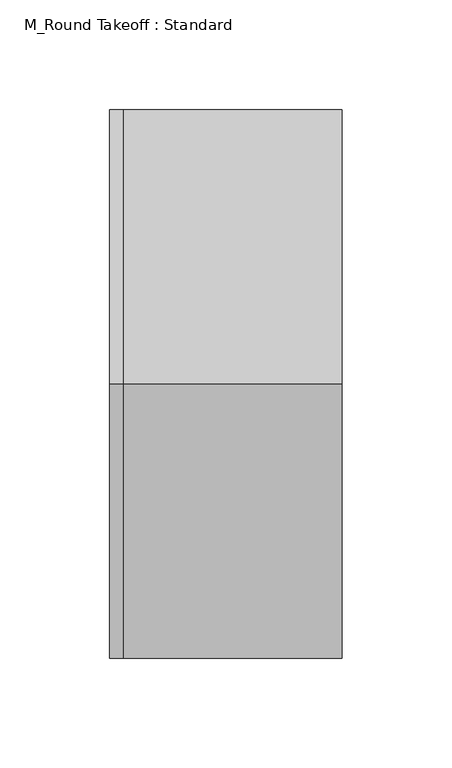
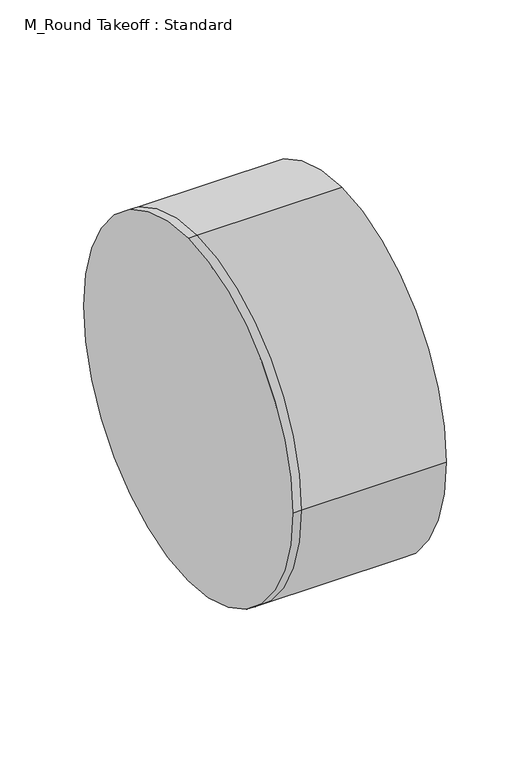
"""IFC4 building model written with IfcOpenShell, lengths in millimetres: duct fitting geometry, M_Round Takeoff : Standard."""

from ifc_helpers import new_model, si_unit, frame, origin, place, context, project, spatial, circle_curve, source, transform, mapped, element, save
from ifc_brep_helpers import plane_surface, cylinder_surface, advanced_brep


def m_round_takeoff_standard_6838db43(model_context):
    return source(origin(), model_context, "Body", "AdvancedBrep", [
        advanced_brep(
        [(-6.0985615, 0.0, 125.0), (-6.0985615, 125.0, 0.0), (-6.0985615, 0.0, -125.0), (-6.0985615, -125.0, 0.0), (0.0, 0.0, 125.0), (0.0, 125.0, 0.0), (0.0, 0.0, -125.0), (0.0, -125.0, 0.0), (100.0025615, 0.0, 125.0), (100.0025615, -125.0, 0.0), (100.0025615, 0.0, -125.0), (100.0025615, 125.0, 0.0)],
        [
            (0, 1, circle_curve(frame((-6.0985615, 0.0, 0.0), z_axis=(-1.0, 0.0, 0.0), x_axis=(0.0, 1.0, 0.0)), 125.0)),
            (1, 2, circle_curve(frame((-6.0985615, 0.0, 0.0), z_axis=(-1.0, 0.0, 0.0), x_axis=(0.0, 1.0, 0.0)), 125.0)),
            (2, 3, circle_curve(frame((-6.0985615, 0.0, 0.0), z_axis=(-1.0, 0.0, 0.0), x_axis=(0.0, 1.0, 0.0)), 125.0)),
            (3, 0, circle_curve(frame((-6.0985615, 0.0, 0.0), z_axis=(-1.0, 0.0, 0.0), x_axis=(0.0, 1.0, 0.0)), 125.0)),
            (0, 4),
            (4, 5, circle_curve(frame((0.0, 0.0, 0.0), z_axis=(-1.0, 0.0, 0.0), x_axis=(0.0, 1.0, 0.0)), 125.0)),
            (5, 1),
            (5, 6, circle_curve(frame((0.0, 0.0, 0.0), z_axis=(-1.0, 0.0, 0.0), x_axis=(0.0, 1.0, 0.0)), 125.0)),
            (6, 2),
            (6, 7, circle_curve(frame((0.0, 0.0, 0.0), z_axis=(-1.0, 0.0, 0.0), x_axis=(0.0, 1.0, 0.0)), 125.0)),
            (7, 3),
            (7, 4, circle_curve(frame((0.0, 0.0, 0.0), z_axis=(-1.0, 0.0, 0.0), x_axis=(0.0, 1.0, 0.0)), 125.0)),
            (8, 9, circle_curve(frame((100.0025615, 0.0, 0.0), z_axis=(1.0, 0.0, 0.0), x_axis=(0.0, 1.0, 0.0)), 125.0)),
            (9, 10, circle_curve(frame((100.0025615, 0.0, 0.0), z_axis=(1.0, 0.0, 0.0), x_axis=(0.0, 1.0, 0.0)), 125.0)),
            (10, 11, circle_curve(frame((100.0025615, 0.0, 0.0), z_axis=(1.0, 0.0, 0.0), x_axis=(0.0, 1.0, 0.0)), 125.0)),
            (11, 8, circle_curve(frame((100.0025615, 0.0, 0.0), z_axis=(1.0, 0.0, 0.0), x_axis=(0.0, 1.0, 0.0)), 125.0)),
            (11, 5),
            (4, 8),
            (10, 6),
            (9, 7),
        ],
        [
            plane_surface(frame((-6.0985615, 0.0, 0.0), z_axis=(-1.0, 0.0, 0.0), x_axis=(0.0, 0.0, 1.0))),
            cylinder_surface(frame((-6.0985615, 0.0, 0.0), z_axis=(-1.0, 0.0, 0.0), x_axis=(0.0, 1.0, 0.0)), 125.0),
            plane_surface(frame((100.0025615, 0.0, 0.0), z_axis=(1.0, 0.0, 0.0), x_axis=(0.0, 0.0, 1.0))),
            cylinder_surface(frame((0.0, 0.0, 0.0), z_axis=(-1.0, 0.0, 0.0), x_axis=(0.0, 1.0, 0.0)), 125.0),
        ],
        [
            (0, [[1, 2, 3, 4]]),
            (1, [[-1, 5, 6, 7]]),
            (1, [[-2, -7, 8, 9]]),
            (1, [[-3, -9, 10, 11]]),
            (1, [[-4, -11, 12, -5]]),
            (2, [[13, 14, 15, 16]]),
            (3, [[-16, 17, -6, 18]]),
            (3, [[-15, 19, -8, -17]]),
            (3, [[-14, 20, -10, -19]]),
            (3, [[-13, -18, -12, -20]]),
        ],
    ),
        advanced_brep(
        [(100.0025615, 0.0, 125.0), (100.0025615, -125.0, 0.0), (100.0025615, 0.0, -125.0), (100.0025615, 125.0, 0.0), (0.0, 125.0, 0.0), (0.0, 0.0, 125.0), (0.0, 0.0, -125.0), (0.0, -125.0, 0.0), (-6.0985615, 0.0, 125.0), (-6.0985615, 125.0, 0.0), (-6.0985615, 0.0, -125.0), (-6.0985615, -125.0, 0.0)],
        [
            (0, 1, circle_curve(frame((100.0025615, 0.0, 0.0), z_axis=(1.0, 0.0, 0.0), x_axis=(0.0, 1.0, 0.0)), 125.0)),
            (1, 2, circle_curve(frame((100.0025615, 0.0, 0.0), z_axis=(1.0, 0.0, 0.0), x_axis=(0.0, 1.0, 0.0)), 125.0)),
            (2, 3, circle_curve(frame((100.0025615, 0.0, 0.0), z_axis=(1.0, 0.0, 0.0), x_axis=(0.0, 1.0, 0.0)), 125.0)),
            (3, 0, circle_curve(frame((100.0025615, 0.0, 0.0), z_axis=(1.0, 0.0, 0.0), x_axis=(0.0, 1.0, 0.0)), 125.0)),
            (3, 4),
            (4, 5, circle_curve(frame((0.0, 0.0, 0.0), z_axis=(1.0, 0.0, 0.0), x_axis=(0.0, 1.0, 0.0)), 125.0)),
            (5, 0),
            (2, 6),
            (6, 4, circle_curve(frame((0.0, 0.0, 0.0), z_axis=(1.0, 0.0, 0.0), x_axis=(0.0, 1.0, 0.0)), 125.0)),
            (1, 7),
            (7, 6, circle_curve(frame((0.0, 0.0, 0.0), z_axis=(1.0, 0.0, 0.0), x_axis=(0.0, 1.0, 0.0)), 125.0)),
            (5, 7, circle_curve(frame((0.0, 0.0, 0.0), z_axis=(1.0, 0.0, 0.0), x_axis=(0.0, 1.0, 0.0)), 125.0)),
            (8, 9, circle_curve(frame((-6.0985615, 0.0, 0.0), z_axis=(-1.0, 0.0, 0.0), x_axis=(0.0, 1.0, 0.0)), 125.0)),
            (9, 10, circle_curve(frame((-6.0985615, 0.0, 0.0), z_axis=(-1.0, 0.0, 0.0), x_axis=(0.0, 1.0, 0.0)), 125.0)),
            (10, 11, circle_curve(frame((-6.0985615, 0.0, 0.0), z_axis=(-1.0, 0.0, 0.0), x_axis=(0.0, 1.0, 0.0)), 125.0)),
            (11, 8, circle_curve(frame((-6.0985615, 0.0, 0.0), z_axis=(-1.0, 0.0, 0.0), x_axis=(0.0, 1.0, 0.0)), 125.0)),
            (8, 5),
            (4, 9),
            (6, 10),
            (7, 11),
        ],
        [
            plane_surface(frame((100.0025615, 0.0, 0.0), z_axis=(1.0, 0.0, 0.0), x_axis=(0.0, 0.0, 1.0))),
            cylinder_surface(frame((0.0, 0.0, 0.0), z_axis=(-1.0, 0.0, 0.0), x_axis=(0.0, 1.0, 0.0)), 125.0),
            plane_surface(frame((-6.0985615, 0.0, 0.0), z_axis=(-1.0, 0.0, 0.0), x_axis=(0.0, 0.0, 1.0))),
            cylinder_surface(frame((-6.0985615, 0.0, 0.0), z_axis=(-1.0, 0.0, 0.0), x_axis=(0.0, 1.0, 0.0)), 125.0),
        ],
        [
            (0, [[1, 2, 3, 4]]),
            (1, [[-4, 5, 6, 7]]),
            (1, [[-3, 8, 9, -5]]),
            (1, [[-2, 10, 11, -8]]),
            (1, [[-1, -7, 12, -10]]),
            (2, [[13, 14, 15, 16]]),
            (3, [[-13, 17, -6, 18]]),
            (3, [[-14, -18, -9, 19]]),
            (3, [[-15, -19, -11, 20]]),
            (3, [[-16, -20, -12, -17]]),
        ],
    ),
        advanced_brep(
        [(-6.0985615, 0.0, 125.0), (-6.0985615, 125.0, 0.0), (-6.0985615, 0.0, -125.0), (-6.0985615, -125.0, 0.0), (0.0, 0.0, 125.0), (0.0, 125.0, 0.0), (0.0, 0.0, -125.0), (0.0, -125.0, 0.0), (100.0025615, 0.0, 125.0), (100.0025615, -125.0, 0.0), (100.0025615, 0.0, -125.0), (100.0025615, 125.0, 0.0)],
        [
            (0, 1, circle_curve(frame((-6.0985615, 0.0, 0.0), z_axis=(-1.0, 0.0, 0.0), x_axis=(0.0, 1.0, 0.0)), 125.0)),
            (1, 2, circle_curve(frame((-6.0985615, 0.0, 0.0), z_axis=(-1.0, 0.0, 0.0), x_axis=(0.0, 1.0, 0.0)), 125.0)),
            (2, 3, circle_curve(frame((-6.0985615, 0.0, 0.0), z_axis=(-1.0, 0.0, 0.0), x_axis=(0.0, 1.0, 0.0)), 125.0)),
            (3, 0, circle_curve(frame((-6.0985615, 0.0, 0.0), z_axis=(-1.0, 0.0, 0.0), x_axis=(0.0, 1.0, 0.0)), 125.0)),
            (0, 4),
            (4, 5, circle_curve(frame((0.0, 0.0, 0.0), z_axis=(-1.0, 0.0, 0.0), x_axis=(0.0, 1.0, 0.0)), 125.0)),
            (5, 1),
            (5, 6, circle_curve(frame((0.0, 0.0, 0.0), z_axis=(-1.0, 0.0, 0.0), x_axis=(0.0, 1.0, 0.0)), 125.0)),
            (6, 2),
            (6, 7, circle_curve(frame((0.0, 0.0, 0.0), z_axis=(-1.0, 0.0, 0.0), x_axis=(0.0, 1.0, 0.0)), 125.0)),
            (7, 3),
            (7, 4, circle_curve(frame((0.0, 0.0, 0.0), z_axis=(-1.0, 0.0, 0.0), x_axis=(0.0, 1.0, 0.0)), 125.0)),
            (8, 9, circle_curve(frame((100.0025615, 0.0, 0.0), z_axis=(1.0, 0.0, 0.0), x_axis=(0.0, 1.0, 0.0)), 125.0)),
            (9, 10, circle_curve(frame((100.0025615, 0.0, 0.0), z_axis=(1.0, 0.0, 0.0), x_axis=(0.0, 1.0, 0.0)), 125.0)),
            (10, 11, circle_curve(frame((100.0025615, 0.0, 0.0), z_axis=(1.0, 0.0, 0.0), x_axis=(0.0, 1.0, 0.0)), 125.0)),
            (11, 8, circle_curve(frame((100.0025615, 0.0, 0.0), z_axis=(1.0, 0.0, 0.0), x_axis=(0.0, 1.0, 0.0)), 125.0)),
            (11, 5),
            (4, 8),
            (10, 6),
            (9, 7),
        ],
        [
            plane_surface(frame((-6.0985615, 0.0, 0.0), z_axis=(-1.0, 0.0, 0.0), x_axis=(0.0, 0.0, 1.0))),
            cylinder_surface(frame((-6.0985615, 0.0, 0.0), z_axis=(-1.0, 0.0, 0.0), x_axis=(0.0, 1.0, 0.0)), 125.0),
            plane_surface(frame((100.0025615, 0.0, 0.0), z_axis=(1.0, 0.0, 0.0), x_axis=(0.0, 0.0, 1.0))),
            cylinder_surface(frame((0.0, 0.0, 0.0), z_axis=(-1.0, 0.0, 0.0), x_axis=(0.0, 1.0, 0.0)), 125.0),
        ],
        [
            (0, [[1, 2, 3, 4]]),
            (1, [[-1, 5, 6, 7]]),
            (1, [[-2, -7, 8, 9]]),
            (1, [[-3, -9, 10, 11]]),
            (1, [[-4, -11, 12, -5]]),
            (2, [[13, 14, 15, 16]]),
            (3, [[-16, 17, -6, 18]]),
            (3, [[-15, 19, -8, -17]]),
            (3, [[-14, 20, -10, -19]]),
            (3, [[-13, -18, -12, -20]]),
        ],
    ),
    ])


if __name__ == "__main__":
    model = new_model("IFC4")
    model_context = context("Model", 3, world=origin())
    ifc_project = project(units=[si_unit("LENGTHUNIT", "METRE", prefix="MILLI")], contexts=[model_context])
    site = spatial("IfcSite", under=ifc_project)
    building = spatial("IfcBuilding", under=site)
    placement = place(None, origin())
    m_round_takeoff_standard_shape = m_round_takeoff_standard_6838db43(model_context)
    element("IfcDuctFitting", 1, ObjectType="M_Round Takeoff : Standard", at=placement, inside=building, context=model_context, shape_type="MappedRepresentation", body=[
        mapped(m_round_takeoff_standard_shape, transform((0.0, 0.0, 0.0), x_axis=(1.0, 0.0, 0.0), y_axis=(0.0, 1.0, 0.0), z_axis=(0.0, 0.0, 1.0))),
    ])
    save(model, "model.ifc")
